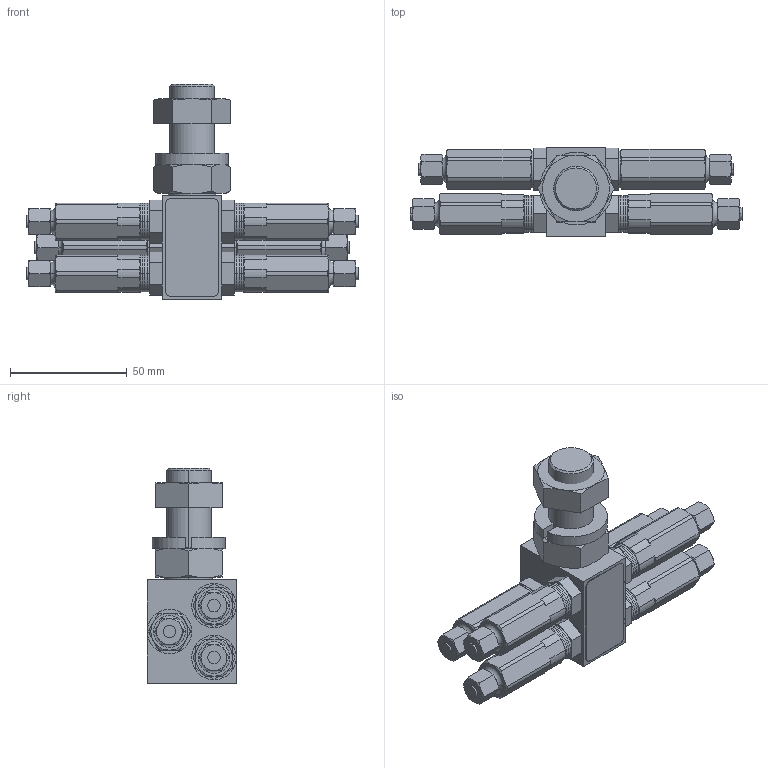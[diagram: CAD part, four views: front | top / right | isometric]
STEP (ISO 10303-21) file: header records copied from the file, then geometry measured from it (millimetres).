
FILE_DESCRIPTION((''),'2;1');
FILE_NAME('25C853-EN-C_PRT','2022-02-14T12:51:12',('qtmwp1'),(''),'CREO PARAMETRIC BY PTC INC, 2021072','CREO PARAMETRIC BY PTC INC, 2021072','');
FILE_SCHEMA(('CONFIG_CONTROL_DESIGN'));
Length unit declared in the file: inch
Products named in the file (1): 25C853-EN-C_PRT
Bounding box: 141.99 x 38.35 x 91.97 mm (x, y, z)
Surface area: 39331.8 mm2 (no closed solid volume)
Topology: 0 solids, 55 shells, 461 faces, 1146 edges, 726 vertices
Faces by surface type: plane 202, cylinder 129, cone 116, torus 14
Entity records: 14720 total; most frequent: CARTESIAN_POINT 4065, DIRECTION 2240, ORIENTED_EDGE 2106, EDGE_CURVE 1146, AXIS2_PLACEMENT_3D 881, VERTEX_POINT 726, VECTOR 478, LINE 478
